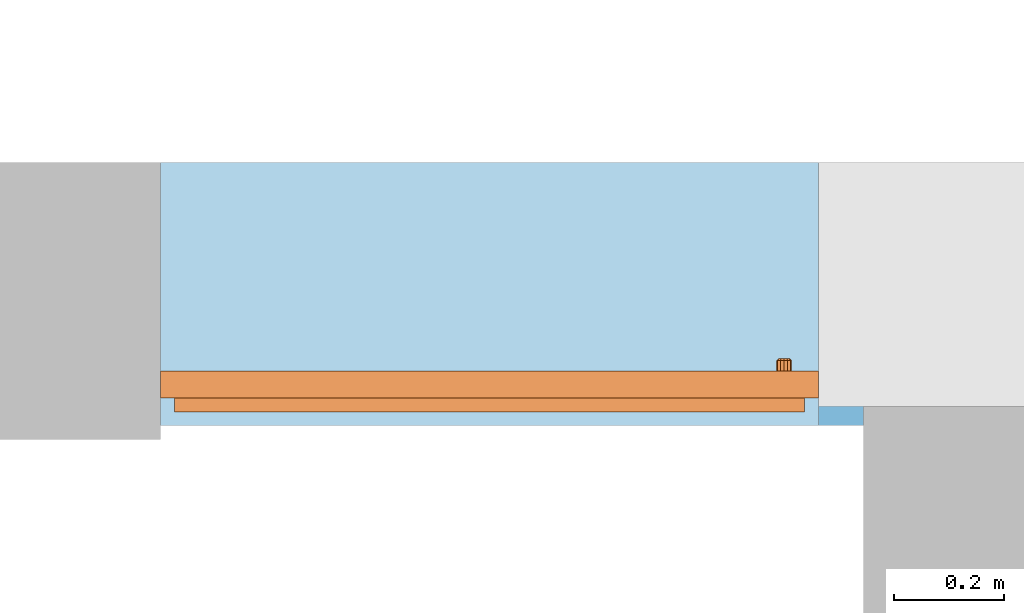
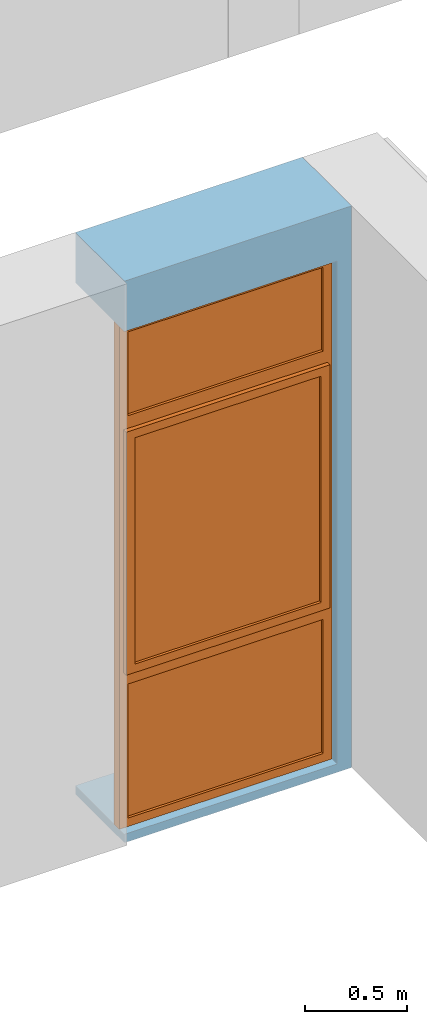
# One storey, part 9 of 11: 1 proxy, 1 opening, plus 1 element that does not belong to this part.
"""IFC2X3 building model written with IfcOpenShell, lengths in millimetres."""

import ifcopenshell
import ifcopenshell.guid

model = None  # the IFC model being written
_history = None  # IfcOwnerHistory: only IFC2X3 demands one
_inside = {}  # id of a spatial element -> (the spatial element, [elements in it])
_under = {}  # id of a project, library or spatial element -> (it, [spatial elements below it])
_declared = {}  # id of a project -> (the project, [libraries it declares])
_typed = {}  # id of a type object -> (the type object, [elements of that type])
_made_of = {}  # id of a material, layer set ... -> (it, [elements and type objects made of it])


def new_model(schema):
    """Start an empty IFC model of exactly this schema.

    Asked for "IFC4X3", IfcOpenShell would pick the latest addendum, in which some entities
    have other attributes; the version numbers below select the first issue.
    IFC2X3 requires an IfcOwnerHistory on every rooted entity: one is made here for all.
    """
    global model, _history
    if schema == "IFC4X3":
        model = ifcopenshell.file(schema_version=(4, 3, 0, 0))
    else:
        model = ifcopenshell.file(schema=schema)
    _inside.clear()
    _under.clear()
    _declared.clear()
    _typed.clear()
    _made_of.clear()
    _history = None
    if model.schema == "IFC2X3":
        org = make("IfcOrganization", Name="unknown")
        user = make(
            "IfcPersonAndOrganization",
            ThePerson=make("IfcPerson", FamilyName="unknown"),
            TheOrganization=org,
        )
        app = make(
            "IfcApplication",
            ApplicationDeveloper=org,
            Version="unknown",
            ApplicationFullName="unknown",
            ApplicationIdentifier="unknown",
        )
        _history = make(
            "IfcOwnerHistory",
            OwningUser=user,
            OwningApplication=app,
            ChangeAction="ADDED",
            CreationDate=0,
        )
    return model


def make(cls, **values):
    """One entity of the class cls with the attributes given. An attribute that is None is left unset."""
    return model.create_entity(
        cls, **{name: value for name, value in values.items() if value is not None}
    )


def entity(cls, *values):
    """Any entity or typed value of the class cls, its attributes in the order of the schema. None: left unset."""
    e = model.create_entity(cls)
    for i, value in enumerate(values):
        if value is not None:
            e[i] = value
    return e


def rooted(cls, **values):
    """An entity with a GlobalId (a new one), such as an element, a storey or a relation."""
    return make(cls, GlobalId=ifcopenshell.guid.new(), OwnerHistory=_history, **values)


def si_unit(unit_type, name, prefix=None):
    """IfcSIUnit, for example si_unit("LENGTHUNIT", "METRE", prefix="MILLI")."""
    return make("IfcSIUnit", UnitType=unit_type, Prefix=prefix, Name=name)


def converted_unit(unit_type, name, factor, base, dimensions=None, offset=None):
    """IfcConversionBasedUnit, such as the inch: factor (a typed value) times the base unit."""
    return make(
        "IfcConversionBasedUnit"
        if offset is None
        else "IfcConversionBasedUnitWithOffset",
        ConversionOffset=offset,
        Dimensions=None
        if dimensions is None
        else entity("IfcDimensionalExponents", *dimensions),
        UnitType=unit_type,
        Name=name,
        ConversionFactor=make(
            "IfcMeasureWithUnit", ValueComponent=factor, UnitComponent=base
        ),
    )


def derived_unit(unit_type, elements):
    """IfcDerivedUnit: a product of units, each with its exponent."""
    return make(
        "IfcDerivedUnit",
        Elements=[
            make("IfcDerivedUnitElement", Unit=unit, Exponent=power)
            for unit, power in elements
        ],
        UnitType=unit_type,
    )


def money_unit(currency):
    """IfcMonetaryUnit."""
    return make("IfcMonetaryUnit", Currency=currency)


def assignment(units):
    """IfcUnitAssignment: the units of a project."""
    return None if units is None else make("IfcUnitAssignment", Units=units)


def point(xyz):
    """IfcCartesianPoint."""
    return None if xyz is None else make("IfcCartesianPoint", Coordinates=xyz)


def direction(xyz):
    """IfcDirection."""
    return None if xyz is None else make("IfcDirection", DirectionRatios=xyz)


def frame(location, z_axis=None, x_axis=None):
    """IfcAxis2Placement3D, a coordinate frame: its origin and axes. An axis left out is left unset."""
    return make(
        "IfcAxis2Placement3D",
        Location=point(location),
        Axis=direction(z_axis),
        RefDirection=direction(x_axis),
    )


def frame_2d(location, x_axis=None):
    """IfcAxis2Placement2D, a coordinate frame in the plane: its origin and x axis."""
    return make(
        "IfcAxis2Placement2D", Location=point(location), RefDirection=direction(x_axis)
    )


def origin_with_axes():
    """The frame at (0, 0, 0) with the z axis (0, 0, 1) and the x axis (1, 0, 0) written out."""
    return frame((0.0, 0.0, 0.0), z_axis=(0.0, 0.0, 1.0), x_axis=(1.0, 0.0, 0.0))


def origin_2d_with_axis():
    """The frame at (0, 0) in the plane with the x axis (1, 0) written out."""
    return frame_2d((0.0, 0.0), x_axis=(1.0, 0.0))


def place(relative_to, where):
    """IfcLocalPlacement: puts the frame where relative to a parent placement (None: the world)."""
    return make(
        "IfcLocalPlacement", PlacementRelTo=relative_to, RelativePlacement=where
    )


def context(
    kind, dimensions, precision=None, world=None, true_north=None, identifier=None
):
    """IfcGeometricRepresentationContext, for example the 3D "Model" context."""
    return make(
        "IfcGeometricRepresentationContext",
        ContextIdentifier=identifier,
        ContextType=kind,
        CoordinateSpaceDimension=dimensions,
        Precision=precision,
        WorldCoordinateSystem=world,
        TrueNorth=true_north,
    )


def subcontext(parent, identifier, kind, view, scale=None):
    """IfcGeometricRepresentationSubContext, for example "Body" below "Model"."""
    return make(
        "IfcGeometricRepresentationSubContext",
        ContextIdentifier=identifier,
        ContextType=kind,
        ParentContext=parent,
        TargetScale=scale,
        TargetView=view,
    )


def project(units=None, contexts=None):
    """IfcProject with its units and contexts."""
    return rooted(
        "IfcProject",
        Name="project",
        RepresentationContexts=contexts,
        UnitsInContext=assignment(units),
    )


def spatial(cls, under=None, at=None, **own):
    """A site, building, storey or space (cls), placed at a placement, below another one or the project."""
    s = rooted(cls, ObjectPlacement=at, **own)
    if under is not None:
        _under.setdefault(under.id(), (under, []))[1].append(s)
    return s


def polyline(points):
    """IfcPolyline through the points."""
    return make("IfcPolyline", Points=[point(p) for p in points])


def profile(cls, at=None, kind="AREA", **sizes):
    """A parametric profile (cls). Its sizes go by their IFC names, for example OverallWidth=200.0."""
    return make(cls, ProfileType=kind, Position=at, **sizes)


def rectangle(**sizes):
    """IfcRectangleProfileDef."""
    return profile("IfcRectangleProfileDef", **sizes)


def outline(outer, holes=None, kind="AREA"):
    """IfcArbitraryClosedProfileDef: a profile drawn as a closed curve; with holes, ...WithVoids."""
    if holes is None:
        return make("IfcArbitraryClosedProfileDef", ProfileType=kind, OuterCurve=outer)
    return make(
        "IfcArbitraryProfileDefWithVoids",
        ProfileType=kind,
        OuterCurve=outer,
        InnerCurves=holes,
    )


def extrude(swept, where, along, depth):
    """IfcExtrudedAreaSolid: the profile swept, set in the frame where, extruded along a direction by depth."""
    return make(
        "IfcExtrudedAreaSolid",
        SweptArea=swept,
        Position=where,
        ExtrudedDirection=direction(along),
        Depth=depth,
    )


def faces_of(points, faces, orient=None, outer=None):
    """IfcFace entities. A face is a list of loops; a loop is a list of indices into points, from 0.

    orient and outer hold one flag for each loop. By default every Orientation is true, the
    first loop of a face is its IfcFaceOuterBound and the others are IfcFaceBound.
    """
    made = []
    for i, loops in enumerate(faces):
        bounds = []
        for j, loop in enumerate(loops):
            is_outer = j == 0 if outer is None else outer[i][j]
            bounds.append(
                make(
                    "IfcFaceOuterBound" if is_outer else "IfcFaceBound",
                    Bound=make("IfcPolyLoop", Polygon=[points[k] for k in loop]),
                    Orientation=True if orient is None else orient[i][j],
                )
            )
        made.append(make("IfcFace", Bounds=bounds))
    return made


def open_shell(faces, orient=None, outer=None):
    """The faces of one IfcOpenShell. surface_model builds it on its shared points."""
    return ("IfcOpenShell", faces, orient, outer)


def faceted_brep(points, faces, orient=None, outer=None, voids=None):
    """IfcFacetedBrep: a solid bounded by flat faces; with voids (closed shells), ...WithVoids."""
    shared = [point(p) for p in points]
    hull = make("IfcClosedShell", CfsFaces=faces_of(shared, faces, orient, outer))
    if voids is None:
        return make("IfcFacetedBrep", Outer=hull)
    return make(
        "IfcFacetedBrepWithVoids",
        Outer=hull,
        Voids=[
            make(cls, CfsFaces=faces_of(shared, fs, o, b)) for cls, fs, o, b in voids
        ],
    )


def surface_model(cls, points, shells):
    """IfcFaceBasedSurfaceModel or IfcShellBasedSurfaceModel (cls): surfaces that need not close."""
    shared = [point(p) for p in points]
    made = [make(c, CfsFaces=faces_of(shared, fs, o, b)) for c, fs, o, b in shells]
    if cls == "IfcFaceBasedSurfaceModel":
        return make(cls, FbsmFaces=made)
    return make(cls, SbsmBoundary=made)


def shape(context_of_items, identifier, shape_type, items):
    """IfcShapeRepresentation: the items that make up one representation, for example the "Body"."""
    return make(
        "IfcShapeRepresentation",
        ContextOfItems=context_of_items,
        RepresentationIdentifier=identifier,
        RepresentationType=shape_type,
        Items=items,
    )


def material(Name=None, Category=None):
    """IfcMaterial."""
    return make("IfcMaterial", Name=Name, Category=Category)


def layer(
    of_material, thickness, ventilated=None, Name=None, Category=None, Priority=None
):
    """IfcMaterialLayer: one layer of a wall or slab, of a material (None: an air gap)."""
    return make(
        "IfcMaterialLayer",
        Material=of_material,
        LayerThickness=thickness,
        IsVentilated=ventilated,
        Name=Name,
        Category=Category,
        Priority=Priority,
    )


def layer_set(layers, Name=None):
    """IfcMaterialLayerSet."""
    return make("IfcMaterialLayerSet", MaterialLayers=layers, LayerSetName=Name)


def layer_usage(for_layer_set, set_direction, sense, offset, extent=None):
    """IfcMaterialLayerSetUsage: how a layer set lies in its element."""
    return make(
        "IfcMaterialLayerSetUsage",
        ForLayerSet=for_layer_set,
        LayerSetDirection=set_direction,
        DirectionSense=sense,
        OffsetFromReferenceLine=offset,
        ReferenceExtent=extent,
    )


def made_of(thing, what):
    """Note that an element or type object is made of a material, layer set ...; save() writes the relation."""
    if what is not None:
        _made_of.setdefault(what.id(), (what, []))[1].append(thing)
    return thing


def type_object(cls, material=None, **own):
    """A type object (cls), such as IfcWallType, which elements share."""
    return made_of(rooted(cls, **own), material)


def element(
    cls,
    number,
    at=None,
    inside=None,
    cuts=None,
    type_object=None,
    material=None,
    context=None,
    identifier="Body",
    shape_type=None,
    held_by="IfcProductDefinitionShape",
    body=None,
    shapes=None,
    **own,
):
    """One element of the class cls, such as IfcWall. Its Tag is "e" and its number.

    at: its placement. inside: the storey or other place that contains it. cuts: it is an
    opening in that element (IfcRelVoidsElement). A single representation is given by context,
    identifier, shape_type and body (its items); several are given by shapes. held_by: the class
    of the entity that holds the representations. save() writes the other relations.
    """
    e = rooted(cls, Tag="e%d" % number, ObjectPlacement=at, **own)
    if body is not None:
        shapes = [shape(context, identifier, shape_type, body)]
    if shapes is not None:
        e.Representation = make(held_by, Representations=shapes)
    if inside is not None:
        _inside.setdefault(inside.id(), (inside, []))[1].append(e)
    if cuts is not None:
        rooted(
            "IfcRelVoidsElement", RelatingBuildingElement=cuts, RelatedOpeningElement=e
        )
    if type_object is not None:
        _typed.setdefault(type_object.id(), (type_object, []))[1].append(e)
    return made_of(e, material)


def fill(opening, filler):
    """IfcRelFillsElement: the door or window that sits in an opening."""
    return rooted(
        "IfcRelFillsElement",
        RelatingOpeningElement=opening,
        RelatedBuildingElement=filler,
    )


def aggregate(whole, parts):
    """IfcRelAggregates: a whole, such as a stair, and the parts it consists of."""
    return rooted("IfcRelAggregates", RelatingObject=whole, RelatedObjects=parts)


def save(model, path):
    """Write the relations noted so far, then the file.

    IfcRelAggregates (storeys below a building ...), IfcRelContainedInSpatialStructure (elements
    in a storey), IfcRelDefinesByType, IfcRelAssociatesMaterial and IfcRelDeclares: one each for
    every whole, place, type object, material and project.
    """
    for whole, parts in _under.values():
        aggregate(whole, parts)
    for where, things in _inside.values():
        rooted(
            "IfcRelContainedInSpatialStructure",
            RelatedElements=things,
            RelatingStructure=where,
        )
    for kind, things in _typed.values():
        rooted("IfcRelDefinesByType", RelatedObjects=things, RelatingType=kind)
    for what, things in _made_of.values():
        rooted("IfcRelAssociatesMaterial", RelatedObjects=things, RelatingMaterial=what)
    for by, libraries in _declared.values():
        rooted("IfcRelDeclares", RelatingContext=by, RelatedDefinitions=libraries)
    model.write(path)


model = new_model("IFC2X3")

# Units and contexts
model_context = context("Model", 3, precision=0.01, world=origin_with_axes(), true_north=direction((0.0, 1.0)))
body_context = subcontext(model_context, "Body", "Model", "MODEL_VIEW")
ifc_project = project(units=[si_unit("LENGTHUNIT", "METRE", prefix="MILLI"), si_unit("AREAUNIT", "SQUARE_METRE"), si_unit("VOLUMEUNIT", "CUBIC_METRE"), converted_unit("PLANEANGLEUNIT", "DEGREE", entity("IfcPlaneAngleMeasure", 0.0174532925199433), si_unit("PLANEANGLEUNIT", "RADIAN"), dimensions=[0, 0, 0, 0, 0, 0, 0]), money_unit("USD"), converted_unit("TIMEUNIT", "Year", entity("IfcTimeMeasure", 31557600.0), si_unit("TIMEUNIT", "SECOND"), dimensions=[0, 0, 1, 0, 0, 0, 0]), si_unit("MASSUNIT", "GRAM", prefix="KILO"), si_unit("THERMODYNAMICTEMPERATUREUNIT", "DEGREE_CELSIUS"), si_unit("LUMINOUSINTENSITYUNIT", "LUMEN"), si_unit("ENERGYUNIT", "JOULE", prefix="MEGA"), derived_unit("THERMALCONDUCTANCEUNIT", [(si_unit("POWERUNIT", "WATT"), 1), (si_unit("LENGTHUNIT", "METRE"), -1), (si_unit("THERMODYNAMICTEMPERATUREUNIT", "KELVIN"), -1)]), derived_unit("SPECIFICHEATCAPACITYUNIT", [(si_unit("ENERGYUNIT", "JOULE"), 1), (si_unit("MASSUNIT", "GRAM", prefix="KILO"), -1), (si_unit("THERMODYNAMICTEMPERATUREUNIT", "KELVIN"), -1)]), derived_unit("MASSDENSITYUNIT", [(si_unit("MASSUNIT", "GRAM", prefix="KILO"), 1), (si_unit("VOLUMEUNIT", "CUBIC_METRE"), -1)])], contexts=[model_context])

# Site, building, storey
site_placement = place(None, origin_with_axes())
site = spatial("IfcSite", under=ifc_project, at=site_placement, Name="Sitio", CompositionType="ELEMENT")
building_placement = place(site_placement, origin_with_axes())
building = spatial("IfcBuilding", under=site, at=building_placement, Name="Construcción", CompositionType="ELEMENT")
storey_placement = place(building_placement, frame((0.0, 0.0, -3650.0), z_axis=(0.0, 0.0, 1.0), x_axis=(1.0, 0.0, 0.0)))
storey = spatial("IfcBuildingStorey", under=building, at=storey_placement, Name="-1. Piso", CompositionType="ELEMENT", Elevation=-3650.0)

# Wall, opening, proxy
ifc_material_1 = material(Name="ARQ_AM246_Arrebossat_De_Guix")
ifc_layer_1 = layer(ifc_material_1, 10.0, ventilated="UNKNOWN")
ifc_material_2 = material(Name="ARQ_CE217_Gero")
ifc_layer_2 = layer(ifc_material_2, 120.0, ventilated="UNKNOWN")
ifc_material_3 = material(Name="ARQ_AI031_Aillament_Poliestireno expandido EPS")
ifc_layer_3 = layer(ifc_material_3, 120.0, ventilated="UNKNOWN")
ifc_material_4 = material(Name="ARQ_CE218_Ceramic")
ifc_layer_4 = layer(ifc_material_4, 220.0, ventilated="UNKNOWN")
ifc_layer_5 = layer(ifc_material_1, 10.0, ventilated="UNKNOWN")
ifc_layer_set = layer_set([ifc_layer_1, ifc_layer_2, ifc_layer_3, ifc_layer_4, ifc_layer_5], Name="façana pati CR2 (ampit)")
ifc_layer_usage = layer_usage(ifc_layer_set, "AXIS2", "POSITIVE", -480.0)
wall_type = type_object("IfcWallType", Name="façana pati CR2 (ampit) 480", PredefinedType="NOTDEFINED")
wall_placement = place(storey_placement, frame((-3383.431355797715, -1193.975823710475, 0.0), z_axis=(0.0, 0.0, 1.0), x_axis=(1.0, 0.0, 0.0)))
wall = element("IfcWallStandardCase", 1, at=wall_placement, inside=storey, type_object=wall_type, material=ifc_layer_usage, Name="MS-200", context=body_context, shape_type="SweptSolid", body=[
    extrude(outline(polyline([(0.0, -480.0), (1282.322350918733, -480.0), (1282.322350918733, 0.0), (0.0, 0.0), (0.0, -480.0)])), origin_with_axes(), (0.0, 0.0, 1.0), 3350.0),
])
opening_placement = place(wall_placement, frame((599.9999999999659, 0.0, 49.99999999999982), z_axis=(0.0, 0.0, 1.0), x_axis=(1.0, 0.0, 0.0)))
opening = element("IfcOpeningElement", 2, at=opening_placement, cuts=wall, Name="V - 008", context=body_context, shape_type="SweptSolid", body=[
    extrude(rectangle(XDim=1199.999999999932, YDim=3000.0, at=origin_2d_with_axis()), frame((0.0, -429.9999999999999, 1500.0), z_axis=(0.0, -1.0, 0.0), x_axis=(-1.0, 0.0, 0.0)), (0.0, 0.0, -1.0), 909.9999999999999),
    extrude(rectangle(XDim=1199.999999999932, YDim=3000.0, at=origin_2d_with_axis()), frame((0.0, -429.9999999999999, 1500.0), z_axis=(0.0, 1.0, 0.0), x_axis=(-1.0, 0.0, 0.0)), (0.0, 0.0, -1.0), 530.0),
])
building_element_proxy_type = type_object("IfcBuildingElementProxyType", Name="Ventana Vertical Multi-Faja 27", PredefinedType="NOTDEFINED")
proxy_placement = place(opening_placement, frame((599.9999999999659, 0.0, 0.0), z_axis=(0.0, 0.0, 1.0), x_axis=(-1.0, 0.0, 0.0)))
proxy = element("IfcBuildingElementProxy", 3, at=proxy_placement, inside=storey, type_object=building_element_proxy_type, Name="V - 008", context=body_context, shape_type="SurfaceModel", body=[
    faceted_brep([(24.99999999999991, 429.9999999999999, 925.0000000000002), (49.99999999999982, 429.9999999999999, 925.0000000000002), (49.99999999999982, 429.9999999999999, 850.0000000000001), (49.99999999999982, 429.9999999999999, 50.00000000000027), (0.0, 429.9999999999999, 50.00000000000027), (0.0, 429.9999999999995, 2950.0), (49.99999999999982, 429.9999999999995, 2950.0), (49.99999999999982, 429.9999999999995, 2450.0), (49.99999999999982, 429.9999999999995, 2375.0), (24.99999999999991, 429.9999999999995, 2375.0), (24.99999999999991, 404.9999999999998, 925.0000000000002), (49.99999999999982, 404.9999999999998, 925.0000000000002), (49.99999999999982, 404.9999999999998, 950.0000000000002), (49.99999999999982, 379.9999999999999, 950.0000000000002), (49.99999999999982, 379.9999999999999, 850.0000000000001), (49.99999999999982, 379.9999999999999, 50.00000000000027), (0.0, 379.9999999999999, 50.00000000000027), (0.0, 379.9999999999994, 2950.0), (49.99999999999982, 379.9999999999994, 2950.0), (49.99999999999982, 379.9999999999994, 2450.0), (49.99999999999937, 404.9999999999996, 2375.0), (49.99999999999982, 379.9999999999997, 2350.0), (49.99999999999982, 404.9999999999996, 2350.0), (24.99999999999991, 404.9999999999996, 2375.0)], [[[0, 1, 2, 3, 4, 5, 6, 7, 8, 9]], [[0, 10, 11, 1]], [[11, 12, 13, 14, 2, 1]], [[3, 2, 14, 15]], [[4, 3, 15, 16]], [[5, 4, 16, 17]], [[6, 5, 17, 18]], [[7, 6, 18, 19]], [[20, 8, 7, 19, 21, 22]], [[20, 23, 9, 8]], [[9, 23, 10, 0]], [[22, 12, 11, 10, 23, 20]], [[22, 21, 13, 12]], [[17, 16, 15, 14, 13, 21, 19, 18]]]),
    faceted_brep([(1174.999999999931, 429.9999999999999, 925.0000000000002), (1174.999999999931, 429.9999999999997, 2375.0), (1149.999999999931, 429.9999999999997, 2375.0), (1149.999999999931, 429.9999999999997, 2450.0), (1149.999999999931, 429.9999999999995, 2950.0), (1199.999999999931, 429.9999999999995, 2950.0), (1199.999999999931, 430.0000000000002, 50.00000000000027), (1149.999999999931, 430.0000000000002, 50.00000000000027), (1149.999999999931, 429.9999999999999, 850.0000000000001), (1149.999999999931, 429.9999999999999, 925.0000000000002), (1174.999999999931, 405.0, 925.0000000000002), (1174.999999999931, 404.9999999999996, 2375.0), (1149.999999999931, 404.9999999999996, 2375.0), (1149.999999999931, 404.9999999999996, 2350.0), (1149.999999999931, 379.9999999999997, 2350.0), (1149.999999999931, 379.9999999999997, 2450.0), (1149.999999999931, 379.9999999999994, 2950.0), (1199.999999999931, 379.9999999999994, 2950.0), (1199.999999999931, 380.0000000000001, 50.00000000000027), (1149.999999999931, 380.0000000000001, 50.00000000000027), (1149.999999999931, 379.9999999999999, 850.0000000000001), (1149.999999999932, 405.0, 925.0000000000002), (1149.999999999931, 379.9999999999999, 950.0000000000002), (1149.999999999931, 405.0, 950.0000000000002)], [[[0, 1, 2, 3, 4, 5, 6, 7, 8, 9]], [[0, 10, 11, 1]], [[1, 11, 12, 2]], [[12, 13, 14, 15, 3, 2]], [[4, 3, 15, 16]], [[5, 4, 16, 17]], [[6, 5, 17, 18]], [[7, 6, 18, 19]], [[8, 7, 19, 20]], [[21, 9, 8, 20, 22, 23]], [[9, 21, 10, 0]], [[12, 11, 10, 21, 23, 13]], [[23, 22, 14, 13]], [[14, 22, 20, 19, 18, 17, 16, 15]]]),
    faceted_brep([(49.99999999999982, 404.9999999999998, 950.0000000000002), (49.99999999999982, 379.9999999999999, 950.0000000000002), (1149.999999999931, 379.9999999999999, 950.0000000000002), (1149.999999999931, 405.0, 950.0000000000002), (49.99999999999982, 404.9999999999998, 925.0000000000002), (49.99999999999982, 429.9999999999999, 925.0000000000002), (49.99999999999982, 429.9999999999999, 850.0000000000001), (49.99999999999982, 379.9999999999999, 850.0000000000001), (1149.999999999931, 379.9999999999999, 850.0000000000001), (1149.999999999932, 405.0, 925.0000000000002), (1149.999999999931, 429.9999999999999, 850.0000000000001), (1149.999999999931, 429.9999999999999, 925.0000000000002)], [[[0, 1, 2, 3]], [[4, 5, 6, 7, 1, 0]], [[1, 7, 8, 2]], [[9, 3, 2, 8, 10, 11]], [[9, 4, 0, 3]], [[5, 4, 9, 11]], [[11, 10, 6, 5]], [[6, 10, 8, 7]]]),
    faceted_brep([(49.99999999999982, 429.9999999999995, 2375.0), (49.99999999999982, 429.9999999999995, 2450.0), (1149.999999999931, 429.9999999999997, 2450.0), (1149.999999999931, 429.9999999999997, 2375.0), (49.99999999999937, 404.9999999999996, 2375.0), (49.99999999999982, 404.9999999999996, 2350.0), (49.99999999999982, 379.9999999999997, 2350.0), (49.99999999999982, 379.9999999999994, 2450.0), (1149.999999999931, 379.9999999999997, 2450.0), (1149.999999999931, 404.9999999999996, 2375.0), (1149.999999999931, 379.9999999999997, 2350.0), (1149.999999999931, 404.9999999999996, 2350.0)], [[[0, 1, 2, 3]], [[4, 5, 6, 7, 1, 0]], [[2, 1, 7, 8]], [[9, 3, 2, 8, 10, 11]], [[9, 4, 0, 3]], [[11, 5, 4, 9]], [[11, 10, 6, 5]], [[7, 6, 10, 8]]]),
    faceted_brep([(1149.999999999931, 379.9999999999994, 2950.0), (1149.999999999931, 429.9999999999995, 2950.0), (1199.999999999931, 429.9999999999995, 2950.0), (1199.999999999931, 379.9999999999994, 2950.0), (49.99999999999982, 379.9999999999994, 2950.0), (49.99999999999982, 429.9999999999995, 2950.0), (0.0, 429.9999999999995, 2950.0), (0.0, 429.9999999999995, 3000.0), (1199.999999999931, 429.9999999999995, 3000.0), (1199.999999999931, 379.9999999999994, 3000.0), (0.0, 379.9999999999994, 3000.0), (0.0, 379.9999999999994, 2950.0)], [[[0, 1, 2, 3]], [[4, 5, 1, 0]], [[1, 5, 6, 7, 8, 2]], [[3, 2, 8, 9]], [[0, 3, 9, 10, 11, 4]], [[11, 6, 5, 4]], [[10, 7, 6, 11]], [[9, 8, 7, 10]]]),
    faceted_brep([(49.99999999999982, 379.9999999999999, 49.99999999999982), (49.99999999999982, 429.9999999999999, 49.99999999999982), (0.0, 429.9999999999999, 49.99999999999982), (0.0, 379.9999999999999, 49.99999999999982), (1149.999999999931, 380.0000000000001, 49.99999999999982), (1149.999999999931, 430.0000000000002, 49.99999999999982), (1199.999999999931, 430.0000000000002, 49.99999999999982), (1199.999999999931, 430.0000000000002, 0.0), (0.0, 429.9999999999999, 0.0), (0.0, 380.0000000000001, 0.0), (1199.999999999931, 380.0000000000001, 0.0), (1199.999999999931, 380.0000000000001, 49.99999999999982)], [[[0, 1, 2, 3]], [[4, 5, 1, 0]], [[1, 5, 6, 7, 8, 2]], [[3, 2, 8, 9]], [[0, 3, 9, 10, 11, 4]], [[11, 6, 5, 4]], [[10, 7, 6, 11]], [[9, 8, 7, 10]]]),
    surface_model("IfcShellBasedSurfaceModel", [(49.99999999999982, 395.0, 49.99999999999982), (1149.999999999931, 395.0, 49.99999999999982), (1149.999999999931, 395.0, 850.0000000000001), (49.99999999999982, 394.9999999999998, 850.0000000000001)], [open_shell([[[0, 1, 2, 3]]])]),
    surface_model("IfcShellBasedSurfaceModel", [(49.99999999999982, 415.0000000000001, 49.99999999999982), (49.99999999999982, 414.9999999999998, 850.0000000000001), (1149.999999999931, 415.0000000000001, 850.0000000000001), (1149.999999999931, 415.0000000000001, 49.99999999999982)], [open_shell([[[0, 1, 2, 3]]])]),
    faceted_brep([(78.49999999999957, 404.9999999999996, 1677.0), (77.16025403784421, 404.9999999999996, 1682.0), (77.16025403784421, 392.9999999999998, 1682.0), (78.49999999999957, 392.9999999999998, 1677.0), (78.49999999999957, 404.9999999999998, 1623.0), (77.16025403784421, 404.9999999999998, 1618.0), (73.49999999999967, 404.9999999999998, 1614.339745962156), (68.49999999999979, 404.9999999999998, 1613.0), (56.49999999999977, 404.9999999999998, 1613.0), (51.49999999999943, 404.9999999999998, 1614.339745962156), (47.83974596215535, 404.9999999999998, 1618.0), (46.49999999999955, 404.9999999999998, 1623.0), (46.49999999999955, 404.9999999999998, 1677.0), (47.83974596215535, 404.9999999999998, 1682.0), (51.49999999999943, 404.9999999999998, 1685.660254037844), (56.49999999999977, 404.9999999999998, 1687.0), (68.49999999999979, 404.9999999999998, 1687.0), (73.49999999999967, 404.9999999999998, 1685.660254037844), (73.49999999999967, 392.9999999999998, 1685.660254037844), (68.49999999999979, 392.9999999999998, 1687.0), (56.49999999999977, 392.9999999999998, 1687.0), (51.49999999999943, 392.9999999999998, 1685.660254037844), (47.83974596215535, 392.9999999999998, 1682.0), (46.49999999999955, 392.9999999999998, 1677.0), (46.49999999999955, 392.9999999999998, 1623.0), (47.83974596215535, 392.9999999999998, 1618.0), (51.49999999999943, 392.9999999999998, 1614.339745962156), (56.49999999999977, 392.9999999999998, 1613.0), (68.49999999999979, 392.9999999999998, 1613.0), (73.49999999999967, 392.9999999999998, 1614.339745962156), (77.16025403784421, 392.9999999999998, 1618.0), (78.49999999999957, 392.9999999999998, 1623.0)], [[[0, 1, 2, 3]], [[0, 4, 5, 6, 7, 8, 9, 10, 11, 12, 13, 14, 15, 16, 17, 1]], [[1, 17, 18, 2]], [[3, 2, 18, 19, 20, 21, 22, 23, 24, 25, 26, 27, 28, 29, 30, 31]], [[4, 0, 3, 31]], [[5, 4, 31, 30]], [[6, 5, 30, 29]], [[7, 6, 29, 28]], [[8, 7, 28, 27]], [[9, 8, 27, 26]], [[10, 9, 26, 25]], [[11, 10, 25, 24]], [[12, 11, 24, 23]], [[13, 12, 23, 22]], [[14, 13, 22, 21]], [[15, 14, 21, 20]], [[16, 15, 20, 19]], [[17, 16, 19, 18]]]),
    faceted_brep([(62.49999999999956, 392.9999999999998, 1663.5), (55.74999999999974, 392.9999999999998, 1661.69134295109), (55.74999999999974, 368.9999999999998, 1661.69134295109), (62.49999999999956, 368.9999999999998, 1663.5), (69.24999999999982, 392.9999999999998, 1661.69134295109), (74.19134295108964, 392.9999999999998, 1656.75), (75.99999999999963, 392.9999999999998, 1650.0), (74.19134295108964, 392.9999999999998, 1643.25), (69.24999999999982, 392.9999999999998, 1638.30865704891), (62.49999999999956, 392.9999999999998, 1636.5), (55.74999999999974, 392.9999999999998, 1638.30865704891), (50.80865704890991, 392.9999999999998, 1643.25), (48.99999999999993, 392.9999999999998, 1650.0), (50.80865704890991, 392.9999999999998, 1656.75), (50.80865704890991, 368.9999999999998, 1656.75), (48.99999999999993, 368.9999999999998, 1650.0), (50.80865704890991, 368.9999999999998, 1643.25), (55.74999999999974, 368.9999999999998, 1638.30865704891), (62.49999999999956, 368.9999999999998, 1636.5), (69.24999999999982, 368.9999999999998, 1638.30865704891), (74.19134295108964, 368.9999999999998, 1643.25), (75.99999999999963, 368.9999999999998, 1650.0), (74.19134295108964, 368.9999999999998, 1656.75), (69.24999999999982, 368.9999999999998, 1661.69134295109)], [[[0, 1, 2, 3]], [[0, 4, 5, 6, 7, 8, 9, 10, 11, 12, 13, 1]], [[1, 13, 14, 2]], [[3, 2, 14, 15, 16, 17, 18, 19, 20, 21, 22, 23]], [[4, 0, 3, 23]], [[5, 4, 23, 22]], [[6, 5, 22, 21]], [[7, 6, 21, 20]], [[8, 7, 20, 19]], [[9, 8, 19, 18]], [[10, 9, 18, 17]], [[11, 10, 17, 16]], [[12, 11, 16, 15]], [[13, 12, 15, 14]]]),
    faceted_brep([(73.9999999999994, 368.9999999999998, 1543.0), (62.49999999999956, 368.9999999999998, 1540.0), (50.99999999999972, 368.9999999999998, 1543.0), (48.99999999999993, 368.9999999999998, 1546.0), (48.99999999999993, 368.9999999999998, 1650.0), (50.80865704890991, 368.9999999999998, 1656.75), (55.74999999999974, 368.9999999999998, 1661.69134295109), (62.49999999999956, 368.9999999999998, 1663.5), (69.24999999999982, 368.9999999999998, 1661.69134295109), (74.19134295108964, 368.9999999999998, 1656.75), (75.99999999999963, 368.9999999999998, 1650.0), (75.99999999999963, 368.9999999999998, 1546.0), (74.0000000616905, 360.9999999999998, 1543.000000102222), (62.50000003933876, 360.9999999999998, 1539.999999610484), (51.00000001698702, 360.9999999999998, 1543.000000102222), (48.99999968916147, 360.9999999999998, 1545.999999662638), (48.99999968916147, 360.9999999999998, 1649.99999994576), (50.80865700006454, 360.9999999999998, 1656.749999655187), (55.7500003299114, 360.9999999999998, 1661.691342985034), (62.50000003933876, 360.9999999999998, 1663.500000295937), (69.24999974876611, 360.9999999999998, 1661.691342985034), (74.19134307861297, 360.9999999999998, 1656.749999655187), (76.00000038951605, 360.9999999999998, 1649.99999994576), (76.00000038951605, 360.9999999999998, 1545.999999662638), (72.13746253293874, 358.000000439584, 1545.61451963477), (62.50000003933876, 358.000000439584, 1543.100398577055), (52.86253754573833, 358.000000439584, 1545.61451963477), (51.99999924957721, 358.000000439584, 1546.908326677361), (51.99999924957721, 358.000000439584, 1649.605042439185), (53.49838296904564, 358.000000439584, 1655.197085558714), (57.30291442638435, 358.000000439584, 1659.001617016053), (62.50000003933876, 358.000000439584, 1660.394172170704), (67.69708565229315, 358.000000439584, 1659.001617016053), (71.50161710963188, 358.000000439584, 1655.197085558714), (73.0000008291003, 358.000000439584, 1649.605042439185), (73.0000008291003, 358.000000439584, 1546.908326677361)], [[[0, 1, 2, 3, 4, 5, 6, 7, 8, 9, 10, 11]], [[1, 0, 12, 13]], [[2, 1, 13, 14]], [[3, 2, 14, 15]], [[4, 3, 15, 16]], [[5, 4, 16, 17]], [[6, 5, 17, 18]], [[7, 6, 18, 19]], [[8, 7, 19, 20]], [[9, 8, 20, 21]], [[10, 9, 21, 22]], [[11, 10, 22, 23]], [[0, 11, 23, 12]], [[13, 12, 24, 25]], [[14, 13, 25, 26]], [[15, 14, 26, 27]], [[16, 15, 27, 28]], [[17, 16, 28, 29]], [[18, 17, 29, 30]], [[19, 18, 30, 31]], [[20, 19, 31, 32]], [[21, 20, 32, 33]], [[22, 21, 33, 34]], [[23, 22, 34, 35]], [[12, 23, 35, 24]], [[26, 25, 24, 35, 34, 33, 32, 31, 30, 29, 28, 27]]]),
    faceted_brep([(74.99999999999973, 404.9999999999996, 2325.0), (74.99999999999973, 454.9999999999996, 2325.0), (24.99999999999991, 454.9999999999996, 2325.0), (24.99999999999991, 404.9999999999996, 2325.0), (74.99999999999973, 404.9999999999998, 975.0000000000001), (74.99999999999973, 454.9999999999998, 975.0000000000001), (24.99999999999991, 454.9999999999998, 975.0000000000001), (24.99999999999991, 404.9999999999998, 975.0000000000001)], [[[0, 1, 2, 3]], [[4, 5, 1, 0]], [[1, 5, 6, 2]], [[3, 2, 6, 7]], [[0, 3, 7, 4]], [[7, 6, 5, 4]]]),
    faceted_brep([(1124.999999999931, 404.9999999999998, 975.0000000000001), (1124.999999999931, 454.9999999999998, 975.0000000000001), (1174.999999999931, 454.9999999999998, 975.0000000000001), (1174.999999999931, 404.9999999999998, 975.0000000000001), (1124.999999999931, 404.9999999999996, 2325.0), (1124.999999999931, 454.9999999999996, 2325.0), (1174.999999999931, 454.9999999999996, 2325.0), (1174.999999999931, 404.9999999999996, 2325.0)], [[[0, 1, 2, 3]], [[4, 5, 1, 0]], [[1, 5, 6, 2]], [[3, 2, 6, 7]], [[0, 3, 7, 4]], [[7, 6, 5, 4]]]),
    faceted_brep([(1174.999999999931, 404.9999999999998, 925.0000000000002), (1174.999999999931, 454.9999999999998, 925.0000000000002), (1174.999999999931, 454.9999999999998, 975.0000000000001), (1174.999999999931, 404.9999999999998, 975.0000000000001), (24.99999999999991, 404.9999999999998, 925.0000000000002), (24.99999999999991, 454.9999999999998, 925.0000000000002), (24.99999999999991, 454.9999999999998, 975.0000000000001), (74.99999999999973, 454.9999999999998, 975.0000000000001), (1124.999999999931, 454.9999999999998, 975.0000000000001), (1124.999999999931, 404.9999999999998, 975.0000000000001), (74.99999999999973, 404.9999999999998, 975.0000000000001), (24.99999999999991, 404.9999999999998, 975.0000000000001)], [[[0, 1, 2, 3]], [[4, 5, 1, 0]], [[1, 5, 6, 7, 8, 2]], [[3, 2, 8, 9]], [[0, 3, 9, 10, 11, 4]], [[11, 6, 5, 4]], [[10, 7, 6, 11]], [[9, 8, 7, 10]]]),
    faceted_brep([(24.99999999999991, 404.9999999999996, 2375.0), (24.99999999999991, 454.9999999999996, 2375.0), (24.99999999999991, 454.9999999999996, 2325.0), (24.99999999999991, 404.9999999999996, 2325.0), (1174.999999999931, 404.9999999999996, 2375.0), (1174.999999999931, 454.9999999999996, 2375.0), (1174.999999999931, 454.9999999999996, 2325.0), (1124.999999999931, 454.9999999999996, 2325.0), (74.99999999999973, 454.9999999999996, 2325.0), (74.99999999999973, 404.9999999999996, 2325.0), (1124.999999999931, 404.9999999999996, 2325.0), (1174.999999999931, 404.9999999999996, 2325.0)], [[[0, 1, 2, 3]], [[4, 5, 1, 0]], [[1, 5, 6, 7, 8, 2]], [[3, 2, 8, 9]], [[0, 3, 9, 10, 11, 4]], [[11, 6, 5, 4]], [[10, 7, 6, 11]], [[9, 8, 7, 10]]]),
    surface_model("IfcShellBasedSurfaceModel", [(74.99999999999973, 419.9999999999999, 975.0000000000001), (1124.999999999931, 419.9999999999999, 975.0000000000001), (1124.999999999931, 419.9999999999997, 2325.0), (74.99999999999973, 419.9999999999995, 2325.0)], [open_shell([[[0, 1, 2, 3]]])]),
    surface_model("IfcShellBasedSurfaceModel", [(74.99999999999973, 439.9999999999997, 975.0000000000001), (74.99999999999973, 439.9999999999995, 2325.0), (1124.999999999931, 439.9999999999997, 2325.0), (1124.999999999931, 439.9999999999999, 975.0000000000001)], [open_shell([[[0, 1, 2, 3]]])]),
    surface_model("IfcShellBasedSurfaceModel", [(49.99999999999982, 394.9999999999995, 2450.0), (1149.999999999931, 394.9999999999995, 2450.0), (1149.999999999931, 394.9999999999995, 2950.0), (49.99999999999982, 394.9999999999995, 2950.0)], [open_shell([[[0, 1, 2, 3]]])]),
    surface_model("IfcShellBasedSurfaceModel", [(49.99999999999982, 414.9999999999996, 2450.0), (49.99999999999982, 414.9999999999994, 2950.0), (1149.999999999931, 414.9999999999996, 2950.0), (1149.999999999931, 414.9999999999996, 2450.0)], [open_shell([[[0, 1, 2, 3]]])]),
])
fill(opening, proxy)

save(model, "model.ifc")
